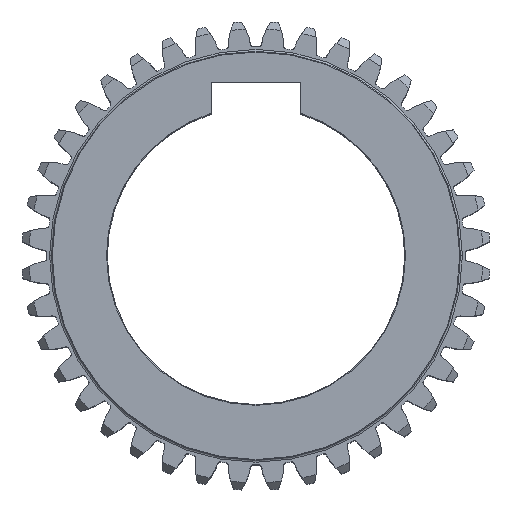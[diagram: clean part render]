
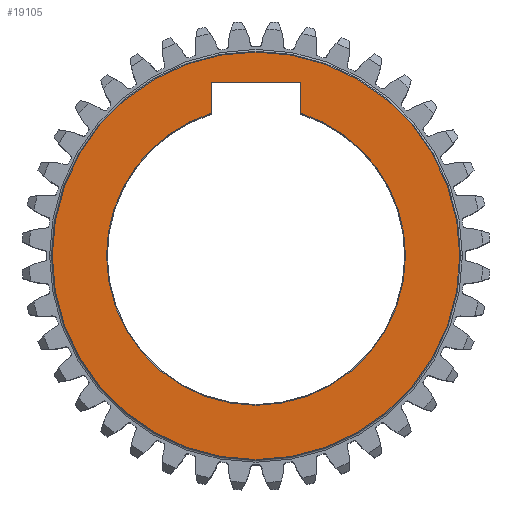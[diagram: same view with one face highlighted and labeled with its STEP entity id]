
A CAD part, top view. The second image highlights one B-rep face of the part: STEP entity #19105.
In plain terms, the highlighted planar face has unit normal (0, 0, 1).
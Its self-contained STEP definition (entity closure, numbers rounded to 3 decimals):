
#693 = CARTESIAN_POINT ( 'NONE',  ( 27.4, 0., 15. ) ) ;
#746 = AXIS2_PLACEMENT_3D ( 'NONE', #8175, #4965, #6840 ) ;
#1342 = DIRECTION ( 'NONE',  ( 1., 0., 0. ) ) ;
#1460 = EDGE_CURVE ( 'NONE', #10672, #7211, #17514, .T. ) ;
#1483 = ORIENTED_EDGE ( 'NONE', *, *, #17227, .T. ) ;
#1532 = CARTESIAN_POINT ( 'NONE',  ( -6., 23.3, 15. ) ) ;
#2192 = CARTESIAN_POINT ( 'NONE',  ( 0., 0., 15. ) ) ;
#2201 = AXIS2_PLACEMENT_3D ( 'NONE', #5762, #7332, #9198 ) ;
#2466 = PLANE ( 'NONE',  #2201 ) ;
#2685 = VERTEX_POINT ( 'NONE', #21481 ) ;
#2693 = CARTESIAN_POINT ( 'NONE',  ( 0., 0., 15. ) ) ;
#2695 = LINE ( 'NONE', #13103, #15100 ) ;
#2869 = ORIENTED_EDGE ( 'NONE', *, *, #1460, .T. ) ;
#3131 = EDGE_CURVE ( 'NONE', #18212, #17389, #15421, .T. ) ;
#4054 = VECTOR ( 'NONE', #21104, 1000. ) ;
#4551 = DIRECTION ( 'NONE',  ( 1., 0., 0. ) ) ;
#4701 = VERTEX_POINT ( 'NONE', #1532 ) ;
#4917 = CARTESIAN_POINT ( 'NONE',  ( 0., 0., 15. ) ) ;
#4965 = DIRECTION ( 'NONE',  ( 0., 0., -1. ) ) ;
#5311 = AXIS2_PLACEMENT_3D ( 'NONE', #2192, #8920, #15024 ) ;
#5551 = FACE_OUTER_BOUND ( 'NONE', #6507, .T. ) ;
#5676 = CIRCLE ( 'NONE', #746, 20.1 ) ;
#5762 = CARTESIAN_POINT ( 'NONE',  ( 0., 0., 15. ) ) ;
#6323 = CARTESIAN_POINT ( 'NONE',  ( -27.4, 0., 15. ) ) ;
#6507 = EDGE_LOOP ( 'NONE', ( #2869, #7677 ) ) ;
#6840 = DIRECTION ( 'NONE',  ( 1., 0., 0. ) ) ;
#7117 = EDGE_CURVE ( 'NONE', #15160, #18212, #2695, .T. ) ;
#7211 = VERTEX_POINT ( 'NONE', #693 ) ;
#7332 = DIRECTION ( 'NONE',  ( 0., 0., 1. ) ) ;
#7532 = ORIENTED_EDGE ( 'NONE', *, *, #3131, .T. ) ;
#7677 = ORIENTED_EDGE ( 'NONE', *, *, #15830, .T. ) ;
#7846 = CARTESIAN_POINT ( 'NONE',  ( 6., 19.184, 15. ) ) ;
#8082 = CARTESIAN_POINT ( 'NONE',  ( 0., 0., 15. ) ) ;
#8175 = CARTESIAN_POINT ( 'NONE',  ( 0., 0., 15. ) ) ;
#8450 = DIRECTION ( 'NONE',  ( 0., 0., 1. ) ) ;
#8920 = DIRECTION ( 'NONE',  ( 0., 0., -1. ) ) ;
#9012 = LINE ( 'NONE', #14355, #4054 ) ;
#9198 = DIRECTION ( 'NONE',  ( 1., 0., 0. ) ) ;
#9309 = CIRCLE ( 'NONE', #19599, 27.4 ) ;
#9533 = DIRECTION ( 'NONE',  ( 1., 0., 0. ) ) ;
#9845 = VECTOR ( 'NONE', #1342, 1000. ) ;
#10145 = CARTESIAN_POINT ( 'NONE',  ( 20.1, 0., 15. ) ) ;
#10616 = CIRCLE ( 'NONE', #5311, 20.1 ) ;
#10669 = ORIENTED_EDGE ( 'NONE', *, *, #21236, .T. ) ;
#10672 = VERTEX_POINT ( 'NONE', #6323 ) ;
#12601 = EDGE_CURVE ( 'NONE', #4701, #15160, #21272, .T. ) ;
#13019 = CARTESIAN_POINT ( 'NONE',  ( -6., 19.184, 15. ) ) ;
#13103 = CARTESIAN_POINT ( 'NONE',  ( 6., 16.7, 15. ) ) ;
#13466 = CARTESIAN_POINT ( 'NONE',  ( 6., 23.3, 15. ) ) ;
#14355 = CARTESIAN_POINT ( 'NONE',  ( -6., 16.7, 15. ) ) ;
#14851 = EDGE_CURVE ( 'NONE', #2685, #21400, #10616, .T. ) ;
#15024 = DIRECTION ( 'NONE',  ( 1., 0., 0. ) ) ;
#15100 = VECTOR ( 'NONE', #19755, 1000. ) ;
#15160 = VERTEX_POINT ( 'NONE', #13466 ) ;
#15421 = CIRCLE ( 'NONE', #20374, 20.1 ) ;
#15538 = ORIENTED_EDGE ( 'NONE', *, *, #7117, .T. ) ;
#15830 = EDGE_CURVE ( 'NONE', #7211, #10672, #9309, .T. ) ;
#16272 = ORIENTED_EDGE ( 'NONE', *, *, #12601, .T. ) ;
#16289 = CARTESIAN_POINT ( 'NONE',  ( 6., 23.3, 15. ) ) ;
#16436 = AXIS2_PLACEMENT_3D ( 'NONE', #4917, #8450, #17122 ) ;
#17112 = ORIENTED_EDGE ( 'NONE', *, *, #14851, .T. ) ;
#17122 = DIRECTION ( 'NONE',  ( 1., 0., 0. ) ) ;
#17227 = EDGE_CURVE ( 'NONE', #17389, #2685, #5676, .T. ) ;
#17389 = VERTEX_POINT ( 'NONE', #10145 ) ;
#17514 = CIRCLE ( 'NONE', #16436, 27.4 ) ;
#17647 = FACE_BOUND ( 'NONE', #21132, .T. ) ;
#18193 = DIRECTION ( 'NONE',  ( 0., 0., 1. ) ) ;
#18212 = VERTEX_POINT ( 'NONE', #7846 ) ;
#19105 = ADVANCED_FACE ( 'NONE', ( #5551, #17647 ), #2466, .T. ) ;
#19599 = AXIS2_PLACEMENT_3D ( 'NONE', #2693, #18193, #9533 ) ;
#19637 = DIRECTION ( 'NONE',  ( 0., 0., -1. ) ) ;
#19755 = DIRECTION ( 'NONE',  ( 0., -1., 0. ) ) ;
#20374 = AXIS2_PLACEMENT_3D ( 'NONE', #8082, #19637, #4551 ) ;
#21104 = DIRECTION ( 'NONE',  ( 0., 1., 0. ) ) ;
#21132 = EDGE_LOOP ( 'NONE', ( #15538, #7532, #1483, #17112, #10669, #16272 ) ) ;
#21236 = EDGE_CURVE ( 'NONE', #21400, #4701, #9012, .T. ) ;
#21272 = LINE ( 'NONE', #16289, #9845 ) ;
#21400 = VERTEX_POINT ( 'NONE', #13019 ) ;
#21481 = CARTESIAN_POINT ( 'NONE',  ( -20.1, 0., 15. ) ) ;
